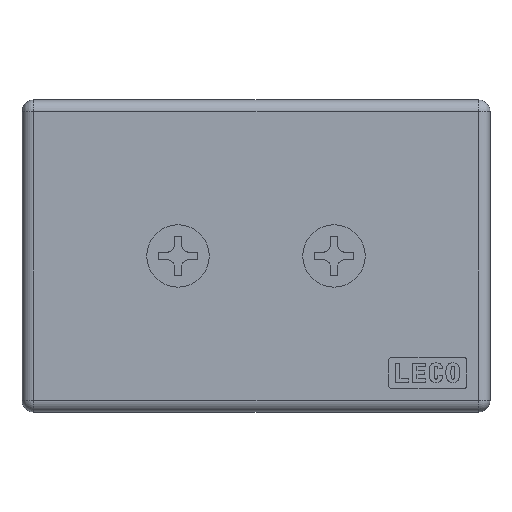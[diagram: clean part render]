
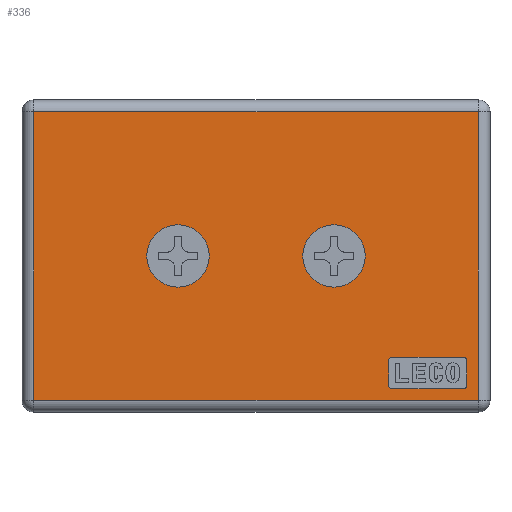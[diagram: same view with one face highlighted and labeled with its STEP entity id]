
A CAD part, top view. The second image highlights one B-rep face of the part: STEP entity #336.
In plain terms, the highlighted planar face has unit normal (0, 0, 1).
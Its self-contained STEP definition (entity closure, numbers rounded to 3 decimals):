
#336=ADVANCED_FACE('',(#842,#843,#844,#845),#846,.F.);
#842=FACE_BOUND('',#1523,.T.);
#843=FACE_BOUND('',#1524,.T.);
#844=FACE_BOUND('',#1525,.T.);
#845=FACE_OUTER_BOUND('',#1526,.T.);
#846=PLANE('',#1527);
#1523=EDGE_LOOP('',(#2500,#2501,#2502,#2503,#2504,#2505,#2506,#2507));
#1524=EDGE_LOOP('',(#2508));
#1525=EDGE_LOOP('',(#2509));
#1526=EDGE_LOOP('',(#2510,#2511,#2512,#2513));
#1527=AXIS2_PLACEMENT_3D('',#2514,#2515,#2516);
#2500=ORIENTED_EDGE('',*,*,#4392,.F.);
#2501=ORIENTED_EDGE('',*,*,#4393,.F.);
#2502=ORIENTED_EDGE('',*,*,#4318,.F.);
#2503=ORIENTED_EDGE('',*,*,#4394,.F.);
#2504=ORIENTED_EDGE('',*,*,#4395,.F.);
#2505=ORIENTED_EDGE('',*,*,#4396,.F.);
#2506=ORIENTED_EDGE('',*,*,#4192,.F.);
#2507=ORIENTED_EDGE('',*,*,#4397,.F.);
#2508=ORIENTED_EDGE('',*,*,#4398,.T.);
#2509=ORIENTED_EDGE('',*,*,#4138,.T.);
#2510=ORIENTED_EDGE('',*,*,#4240,.T.);
#2511=ORIENTED_EDGE('',*,*,#4399,.T.);
#2512=ORIENTED_EDGE('',*,*,#4400,.F.);
#2513=ORIENTED_EDGE('',*,*,#4401,.F.);
#2514=CARTESIAN_POINT('',(66.096,38.5,3.));
#2515=DIRECTION('',(0.0,0.0,-1.0));
#2516=DIRECTION('',(1.0,0.0,0.0));
#4138=EDGE_CURVE('',#4969,#4969,#4970,.T.);
#4192=EDGE_CURVE('',#5065,#5066,#5067,.T.);
#4240=EDGE_CURVE('',#5074,#5148,#5150,.T.);
#4318=EDGE_CURVE('',#5281,#5282,#5283,.T.);
#4392=EDGE_CURVE('',#5408,#5409,#5410,.T.);
#4393=EDGE_CURVE('',#5282,#5408,#5411,.T.);
#4394=EDGE_CURVE('',#5412,#5281,#5413,.T.);
#4395=EDGE_CURVE('',#5414,#5412,#5415,.T.);
#4396=EDGE_CURVE('',#5066,#5414,#5416,.T.);
#4397=EDGE_CURVE('',#5409,#5065,#5417,.T.);
#4398=EDGE_CURVE('',#5418,#5418,#5419,.T.);
#4399=EDGE_CURVE('',#5148,#5420,#5421,.T.);
#4400=EDGE_CURVE('',#5422,#5420,#5423,.T.);
#4401=EDGE_CURVE('',#5074,#5422,#5424,.T.);
#4969=VERTEX_POINT('',#6177);
#4970=CIRCLE('',#6178,4.0);
#5065=VERTEX_POINT('',#6333);
#5066=VERTEX_POINT('',#6334);
#5067=LINE('',#6335,#6336);
#5074=VERTEX_POINT('',#6346);
#5148=VERTEX_POINT('',#6472);
#5150=LINE('',#6474,#6475);
#5281=VERTEX_POINT('',#6707);
#5282=VERTEX_POINT('',#6708);
#5283=LINE('',#6709,#6710);
#5408=VERTEX_POINT('',#6901);
#5409=VERTEX_POINT('',#6902);
#5410=LINE('',#6903,#6904);
#5411=CIRCLE('',#6905,0.4);
#5412=VERTEX_POINT('',#6906);
#5413=CIRCLE('',#6907,0.4);
#5414=VERTEX_POINT('',#6908);
#5415=LINE('',#6909,#6910);
#5416=CIRCLE('',#6911,0.4);
#5417=CIRCLE('',#6912,0.4);
#5418=VERTEX_POINT('',#6913);
#5419=CIRCLE('',#6914,4.0);
#5420=VERTEX_POINT('',#6915);
#5421=LINE('',#6916,#6917);
#5422=VERTEX_POINT('',#6918);
#5423=LINE('',#6919,#6920);
#5424=LINE('',#6921,#6922);
#6177=CARTESIAN_POINT('',(24.,20.0,3.));
#6178=AXIS2_PLACEMENT_3D('',#8005,#8006,#8007);
#6333=CARTESIAN_POINT('',(57.,3.4,3.));
#6334=CARTESIAN_POINT('',(57.,6.6,3.));
#6335=CARTESIAN_POINT('',(57.,3.4,3.));
#6336=VECTOR('',#8081,1.0);
#6346=CARTESIAN_POINT('',(58.5,38.5,3.));
#6472=CARTESIAN_POINT('',(1.5,38.5,3.));
#6474=CARTESIAN_POINT('',(66.096,38.5,3.));
#6475=VECTOR('',#8128,1.0);
#6707=CARTESIAN_POINT('',(47.,6.6,3.));
#6708=CARTESIAN_POINT('',(47.,3.4,3.));
#6709=CARTESIAN_POINT('',(47.,6.6,3.));
#6710=VECTOR('',#8210,1.0);
#6901=CARTESIAN_POINT('',(47.4,3.,3.));
#6902=CARTESIAN_POINT('',(56.6,3.,3.));
#6903=CARTESIAN_POINT('',(47.4,3.,3.));
#6904=VECTOR('',#8293,1.0);
#6905=AXIS2_PLACEMENT_3D('',#8294,#8295,#8296);
#6906=CARTESIAN_POINT('',(47.4,7.0,3.));
#6907=AXIS2_PLACEMENT_3D('',#8297,#8298,#8299);
#6908=CARTESIAN_POINT('',(56.6,7.,3.));
#6909=CARTESIAN_POINT('',(56.6,7.,3.));
#6910=VECTOR('',#8300,1.0);
#6911=AXIS2_PLACEMENT_3D('',#8301,#8302,#8303);
#6912=AXIS2_PLACEMENT_3D('',#8304,#8305,#8306);
#6913=CARTESIAN_POINT('',(44.,20.0,3.));
#6914=AXIS2_PLACEMENT_3D('',#8307,#8308,#8309);
#6915=CARTESIAN_POINT('',(1.5,1.5,3.));
#6916=CARTESIAN_POINT('',(1.5,44.366,3.));
#6917=VECTOR('',#8310,1.0);
#6918=CARTESIAN_POINT('',(58.5,1.5,3.));
#6919=CARTESIAN_POINT('',(66.096,1.5,3.));
#6920=VECTOR('',#8311,1.0);
#6921=CARTESIAN_POINT('',(58.5,44.366,3.));
#6922=VECTOR('',#8312,1.0);
#8005=CARTESIAN_POINT('',(20.,20.0,3.));
#8006=DIRECTION('',(0.0,0.0,-1.0));
#8007=DIRECTION('',(1.0,0.0,0.0));
#8081=DIRECTION('',(0.0,1.0,0.0));
#8128=DIRECTION('',(-1.0,0.0,0.0));
#8210=DIRECTION('',(0.0,-1.0,0.0));
#8293=DIRECTION('',(1.0,0.0,0.0));
#8294=CARTESIAN_POINT('',(47.4,3.4,3.));
#8295=DIRECTION('',(0.0,0.0,1.0));
#8296=DIRECTION('',(1.0,0.0,0.0));
#8297=CARTESIAN_POINT('',(47.4,6.6,3.));
#8298=DIRECTION('',(0.0,0.0,1.0));
#8299=DIRECTION('',(1.0,0.0,0.0));
#8300=DIRECTION('',(-1.0,0.,0.0));
#8301=CARTESIAN_POINT('',(56.6,6.6,3.));
#8302=DIRECTION('',(0.0,0.0,1.0));
#8303=DIRECTION('',(1.0,0.0,0.0));
#8304=CARTESIAN_POINT('',(56.6,3.4,3.));
#8305=DIRECTION('',(0.0,0.0,1.0));
#8306=DIRECTION('',(1.0,0.0,0.0));
#8307=CARTESIAN_POINT('',(40.,20.0,3.));
#8308=DIRECTION('',(0.0,0.0,-1.0));
#8309=DIRECTION('',(1.0,0.0,0.0));
#8310=DIRECTION('',(0.0,-1.0,0.0));
#8311=DIRECTION('',(-1.0,0.0,0.0));
#8312=DIRECTION('',(0.0,-1.0,0.0));
